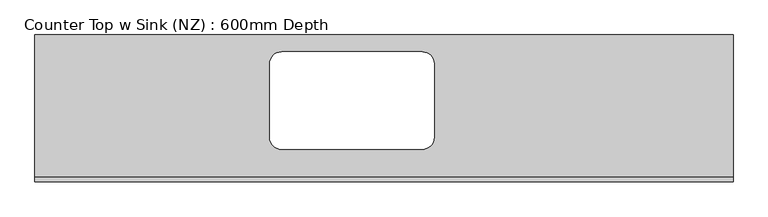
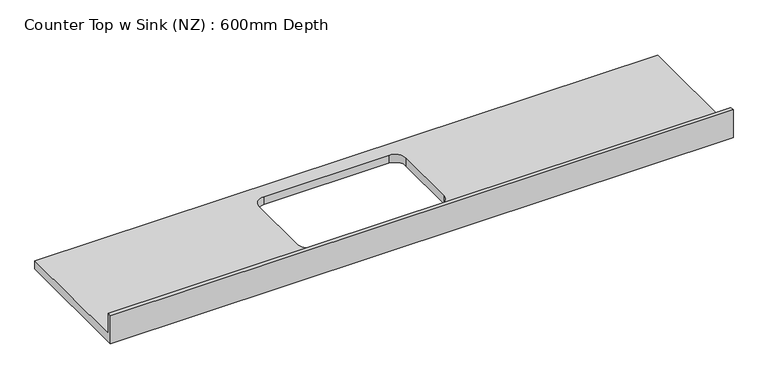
"""IFC4 building model written with IfcOpenShell, lengths in millimetres: furniture geometry, Counter Top w Sink (NZ) : 600mm Depth."""

from ifc_helpers import new_model, si_unit, frame, origin, place, context, project, spatial, polyline, circle_curve, source, transform, mapped, element, save
from ifc_brep_helpers import plane_surface, revolved_surface, advanced_brep


def counter_top_w_sink_nz_600mm_depth_e841d6a1(model_context):
    return source(origin(), model_context, "Body", "AdvancedBrep", [
        advanced_brep(
        [(-1200.4622951, 625.0, 900.0), (-1200.4622951, 19.05, 900.0), (1774.5377049, 19.05, 900.0), (1774.5377049, 625.0, 900.0), (-149.4622951, 137.3, 900.0), (-200.2622951, 188.1, 900.0), (-200.2622951, 501.9, 900.0), (-149.4622951, 552.7, 900.0), (449.3377049, 552.7, 900.0), (500.1377049, 501.9, 900.0), (500.1377049, 188.1, 900.0), (449.3377049, 137.3, 900.0), (1774.5377049, 0.0, 860.0), (-1200.4622951, 0.0, 860.0), (-1200.4622951, 625.0, 860.0), (1774.5377049, 625.0, 860.0), (449.3377049, 137.3, 860.0), (500.1377049, 188.1, 860.0), (500.1377049, 501.9, 860.0), (449.3377049, 552.7, 860.0), (-149.4622951, 552.7, 860.0), (-200.2622951, 501.9, 860.0), (-200.2622951, 188.1, 860.0), (-149.4622951, 137.3, 860.0), (1774.5377049, 0.0, 1001.6), (-1200.4622951, 0.0, 1001.6), (-1200.4622951, 19.05, 1001.6), (1774.5377049, 19.05, 1001.6)],
        [
            (0, 1),
            (1, 2),
            (2, 3),
            (3, 0),
            (4, 5, circle_curve(frame((-149.4622951, 188.1, 900.0), z_axis=(0.0, 0.0, -1.0), x_axis=(1.0, 0.0, 0.0)), 50.8)),
            (5, 6),
            (6, 7, circle_curve(frame((-149.4622951, 501.9, 900.0), z_axis=(0.0, 0.0, -1.0), x_axis=(1.0, 0.0, 0.0)), 50.8)),
            (7, 8),
            (8, 9, circle_curve(frame((449.3377049, 501.9, 900.0), z_axis=(0.0, 0.0, -1.0), x_axis=(1.0, 0.0, 0.0)), 50.8)),
            (9, 10),
            (10, 11, circle_curve(frame((449.3377049, 188.1, 900.0), z_axis=(0.0, 0.0, -1.0), x_axis=(1.0, 0.0, 0.0)), 50.8)),
            (11, 4),
            (12, 13),
            (13, 14),
            (14, 15),
            (15, 12),
            (16, 17, circle_curve(frame((449.3377049, 188.1, 860.0), z_axis=(0.0, 0.0, 1.0), x_axis=(1.0, 0.0, 0.0)), 50.8)),
            (17, 18),
            (18, 19, circle_curve(frame((449.3377049, 501.9, 860.0), z_axis=(0.0, 0.0, 1.0), x_axis=(1.0, 0.0, 0.0)), 50.8)),
            (19, 20),
            (20, 21, circle_curve(frame((-149.4622951, 501.9, 860.0), z_axis=(0.0, 0.0, 1.0), x_axis=(1.0, 0.0, 0.0)), 50.8)),
            (21, 22),
            (22, 23, circle_curve(frame((-149.4622951, 188.1, 860.0), z_axis=(0.0, 0.0, 1.0), x_axis=(1.0, 0.0, 0.0)), 50.8)),
            (23, 16),
            (12, 24),
            (24, 25),
            (25, 13),
            (25, 26),
            (26, 1),
            (0, 14),
            (3, 15),
            (2, 27),
            (27, 24),
            (27, 26),
            (11, 16),
            (23, 4),
            (22, 5),
            (21, 6),
            (20, 7),
            (19, 8),
            (18, 9),
            (17, 10),
        ],
        [
            plane_surface(frame((-1200.4622951, 0.0, 900.0), z_axis=(0.0, 0.0, 1.0), x_axis=(-1.0, 0.0, 0.0))),
            plane_surface(frame((-1200.4622951, 0.0, 860.0), z_axis=(0.0, 0.0, -1.0), x_axis=(1.0, 0.0, 0.0))),
            plane_surface(frame((1774.5377049, 0.0, 900.0), z_axis=(0.0, -1.0, 0.0), x_axis=(0.0, 0.0, -1.0))),
            plane_surface(frame((-1200.4622951, 0.0, 900.0), z_axis=(-1.0, 0.0, 0.0), x_axis=(0.0, 0.0, -1.0))),
            plane_surface(frame((-1200.4622951, 625.0, 900.0), z_axis=(0.0, 1.0, 0.0), x_axis=(0.0, 0.0, -1.0))),
            plane_surface(frame((1774.5377049, 625.0, 900.0), z_axis=(1.0, 0.0, 0.0), x_axis=(0.0, 0.0, -1.0))),
            plane_surface(frame((-1200.4622951, 0.0, 1001.6), z_axis=(0.0, 0.0, 1.0), x_axis=(0.0, 1.0, 0.0))),
            plane_surface(frame((-1200.4622951, 19.05, 1001.6), z_axis=(0.0, 1.0, 0.0), x_axis=(0.0, 0.0, -1.0))),
            plane_surface(frame((449.3377049, 137.3, 900.0), z_axis=(0.0, 1.0, 0.0), x_axis=(0.0, 0.0, -1.0))),
            revolved_surface(polyline([(-98.66229510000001, 188.1, 900.0), (-98.66229510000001, 188.1, 860.0)]), (-149.4622951, 188.1, 860.0), (0.0, 0.0, 1.0)),
            plane_surface(frame((-200.2622951, 188.1, 900.0), z_axis=(1.0, 0.0, 0.0), x_axis=(0.0, 0.0, -1.0))),
            revolved_surface(polyline([(-98.66229510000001, 501.9, 900.0), (-98.66229510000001, 501.9, 860.0)]), (-149.4622951, 501.9, 860.0), (0.0, 0.0, 1.0)),
            plane_surface(frame((-149.4622951, 552.7, 900.0), z_axis=(0.0, -1.0, 0.0), x_axis=(0.0, 0.0, -1.0))),
            revolved_surface(polyline([(500.1377049, 501.9, 900.0), (500.1377049, 501.9, 860.0)]), (449.3377049, 501.9, 860.0), (0.0, 0.0, 1.0)),
            plane_surface(frame((500.1377049, 501.9, 900.0), z_axis=(-1.0, 0.0, 0.0), x_axis=(0.0, 0.0, -1.0))),
            revolved_surface(polyline([(500.1377049, 188.1, 900.0), (500.1377049, 188.1, 860.0)]), (449.3377049, 188.1, 860.0), (0.0, 0.0, 1.0)),
        ],
        [
            (0, [[1, 2, 3, 4], [5, 6, 7, 8, 9, 10, 11, 12]]),
            (1, [[13, 14, 15, 16], [17, 18, 19, 20, 21, 22, 23, 24]]),
            (2, [[25, 26, 27, -13]]),
            (3, [[-27, 28, 29, -1, 30, -14]]),
            (4, [[31, -15, -30, -4]]),
            (5, [[-31, -3, 32, 33, -25, -16]]),
            (6, [[-26, -33, 34, -28]]),
            (7, [[-32, -2, -29, -34]]),
            (8, [[-12, 35, -24, 36]]),
            (9, [[-23, 37, -5, -36]]),
            (10, [[-22, 38, -6, -37]]),
            (11, [[-21, 39, -7, -38]]),
            (12, [[-20, 40, -8, -39]]),
            (13, [[-19, 41, -9, -40]]),
            (14, [[-18, 42, -10, -41]]),
            (15, [[-11, -42, -17, -35]]),
        ],
    ),
    ])


if __name__ == "__main__":
    model = new_model("IFC4")
    model_context = context("Model", 3, world=origin())
    ifc_project = project(units=[si_unit("LENGTHUNIT", "METRE", prefix="MILLI")], contexts=[model_context])
    site = spatial("IfcSite", under=ifc_project)
    building = spatial("IfcBuilding", under=site)
    placement = place(None, origin())
    counter_top_w_sink_nz_600mm_depth_shape = counter_top_w_sink_nz_600mm_depth_e841d6a1(model_context)
    element("IfcFurniture", 1, ObjectType="Counter Top w Sink (NZ) : 600mm Depth", at=placement, inside=building, context=model_context, shape_type="MappedRepresentation", body=[
        mapped(counter_top_w_sink_nz_600mm_depth_shape, transform((0.0, 0.0, 0.0), x_axis=(1.0, 0.0, 0.0), y_axis=(0.0, 1.0, 0.0), z_axis=(0.0, 0.0, 1.0))),
    ])
    save(model, "model.ifc")
